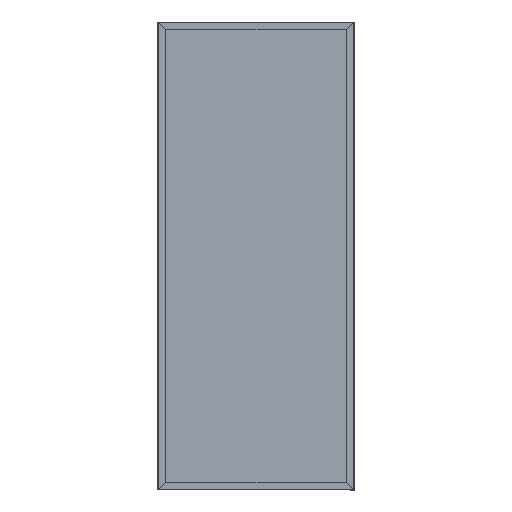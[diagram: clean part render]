
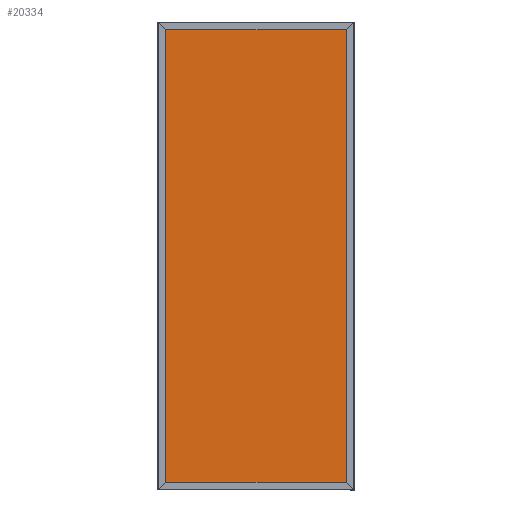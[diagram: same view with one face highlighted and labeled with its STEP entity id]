
A CAD part, top view. The second image highlights one B-rep face of the part: STEP entity #20334.
In plain terms, the highlighted planar face has unit normal (0, 0, 1).
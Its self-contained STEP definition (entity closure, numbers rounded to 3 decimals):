
#1885 = DIRECTION ( 'NONE',  ( 0., 1., 0. ) ) ;
#2789 = ORIENTED_EDGE ( 'NONE', *, *, #23829, .F. ) ;
#3080 = ORIENTED_EDGE ( 'NONE', *, *, #6805, .T. ) ;
#3813 = DIRECTION ( 'NONE',  ( 0., 1., 0. ) ) ;
#5843 = VECTOR ( 'NONE', #3813, 1000. ) ;
#6805 = EDGE_CURVE ( 'NONE', #11339, #24151, #17394, .T. ) ;
#8165 = DIRECTION ( 'NONE',  ( -1., 0., 0. ) ) ;
#8893 = VECTOR ( 'NONE', #1885, 1000. ) ;
#8978 = VECTOR ( 'NONE', #10249, 1000. ) ;
#9727 = CARTESIAN_POINT ( 'NONE',  ( 465.07, -1162.2, -13.25 ) ) ;
#9774 = ORIENTED_EDGE ( 'NONE', *, *, #11954, .F. ) ;
#10249 = DIRECTION ( 'NONE',  ( -1., 0., 0. ) ) ;
#11206 = DIRECTION ( 'NONE',  ( -1., 0., 0. ) ) ;
#11339 = VERTEX_POINT ( 'NONE', #19529 ) ;
#11954 = EDGE_CURVE ( 'NONE', #14226, #24151, #24620, .T. ) ;
#13184 = AXIS2_PLACEMENT_3D ( 'NONE', #29590, #20313, #11206 ) ;
#13335 = FACE_OUTER_BOUND ( 'NONE', #23820, .T. ) ;
#13691 = CARTESIAN_POINT ( 'NONE',  ( 465.07, 0., -13.25 ) ) ;
#14226 = VERTEX_POINT ( 'NONE', #21513 ) ;
#15303 = PLANE ( 'NONE',  #13184 ) ;
#17394 = LINE ( 'NONE', #22102, #8978 ) ;
#19529 = CARTESIAN_POINT ( 'NONE',  ( 465.07, 1162.2, -13.25 ) ) ;
#20313 = DIRECTION ( 'NONE',  ( 0., 0., -1. ) ) ;
#20334 = ADVANCED_FACE ( 'NONE', ( #13335 ), #15303, .F. ) ;
#21513 = CARTESIAN_POINT ( 'NONE',  ( -465.07, -1162.2, -13.25 ) ) ;
#21665 = CARTESIAN_POINT ( 'NONE',  ( -465.07, 1162.2, -13.25 ) ) ;
#22102 = CARTESIAN_POINT ( 'NONE',  ( 0., 1162.2, -13.25 ) ) ;
#22654 = ORIENTED_EDGE ( 'NONE', *, *, #25064, .T. ) ;
#23820 = EDGE_LOOP ( 'NONE', ( #9774, #2789, #22654, #3080 ) ) ;
#23829 = EDGE_CURVE ( 'NONE', #27258, #14226, #29580, .T. ) ;
#24151 = VERTEX_POINT ( 'NONE', #21665 ) ;
#24483 = CARTESIAN_POINT ( 'NONE',  ( -465.07, 0., -13.25 ) ) ;
#24620 = LINE ( 'NONE', #24483, #5843 ) ;
#25064 = EDGE_CURVE ( 'NONE', #27258, #11339, #27217, .T. ) ;
#27217 = LINE ( 'NONE', #13691, #8893 ) ;
#27258 = VERTEX_POINT ( 'NONE', #9727 ) ;
#28813 = VECTOR ( 'NONE', #8165, 1000. ) ;
#29285 = CARTESIAN_POINT ( 'NONE',  ( 0., -1162.2, -13.25 ) ) ;
#29580 = LINE ( 'NONE', #29285, #28813 ) ;
#29590 = CARTESIAN_POINT ( 'NONE',  ( 0., 0., -13.25 ) ) ;
